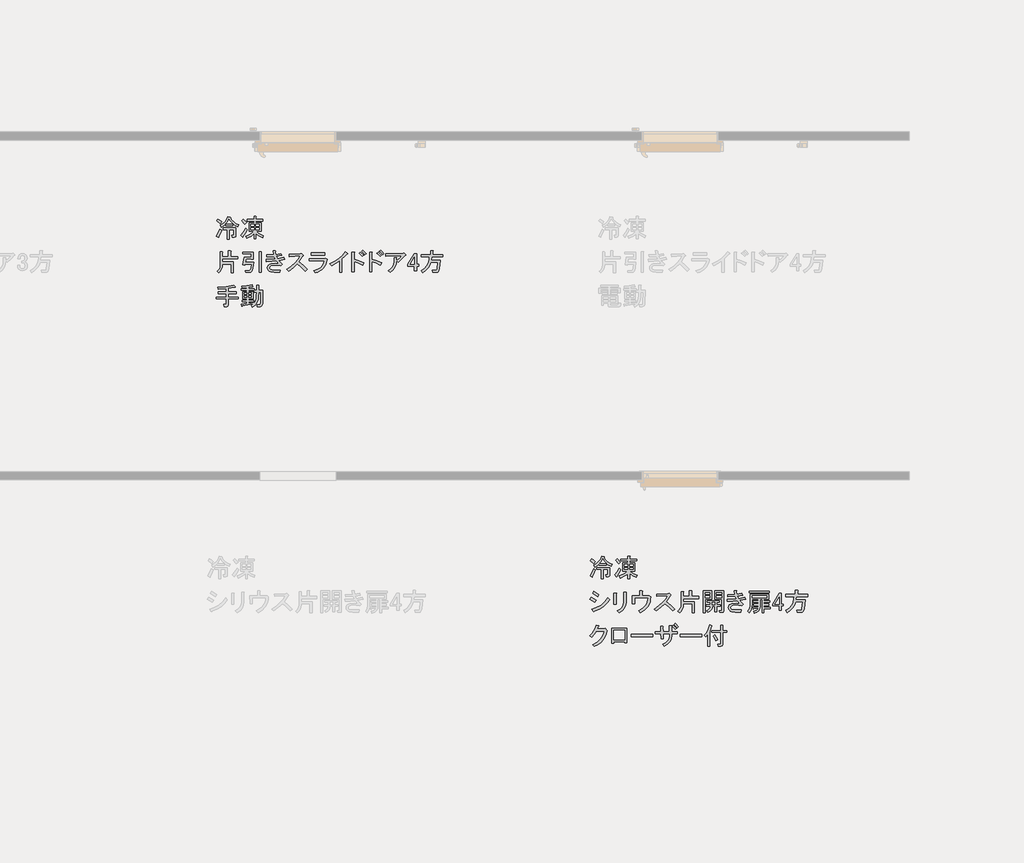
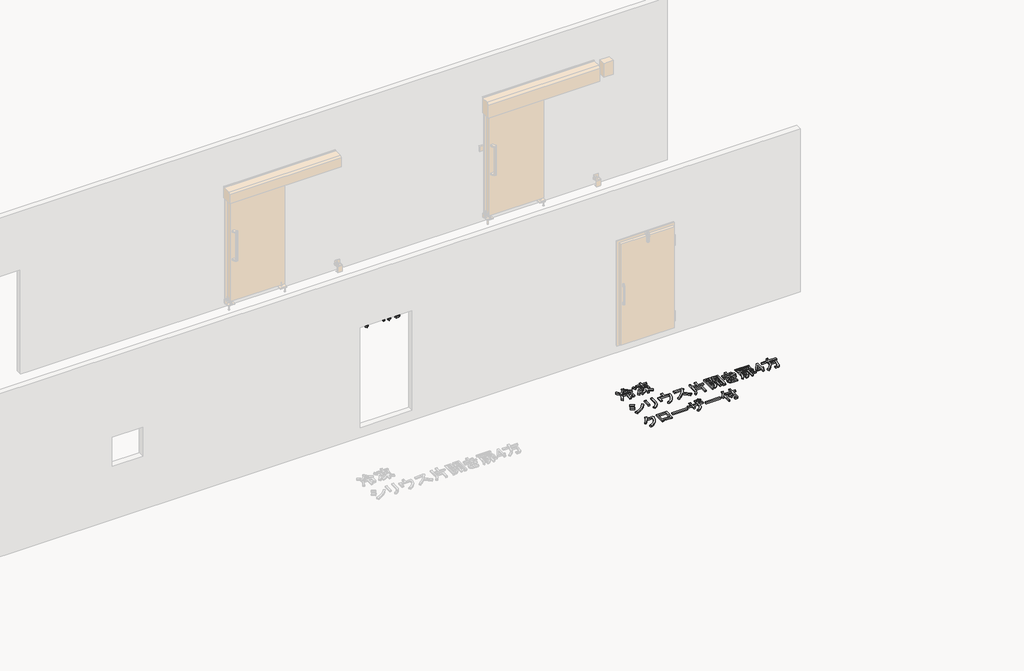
# One storey, part 100 of 117: 2 proxies.
"""IFC4 building model written with IfcOpenShell, lengths in millimetres."""

from ifc_helpers import new_model, si_unit, frame, origin, place, context, project, spatial, polyline, outline, extrude, element, save

model = new_model("IFC4")

# Units and contexts
model_context = context("Model", 3, world=origin())
ifc_project = project(units=[si_unit("LENGTHUNIT", "METRE", prefix="MILLI")], contexts=[model_context])

# Site, building, storey
site = spatial("IfcSite", under=ifc_project)
building = spatial("IfcBuilding", under=site)
storey = spatial("IfcBuildingStorey", under=building, Name="レベル 1", Elevation=500.0)

# Proxies
placement = place(None, origin())
element("IfcBuildingElementProxy", 1, Name="200㎜\u3000MS Pゴシック", ObjectType="200㎜\u3000MS Pゴシック", at=placement, inside=storey, context=model_context, shape_type="SweptSolid", body=[
    extrude(outline(polyline([(19383.6029468, 18948.5050774), (19417.2964447, 18967.9021871), (19443.6621457, 18991.6097656), (19462.7000496, 19019.6278129), (19474.4101566, 19051.9563291), (19505.4455321, 19043.9101206), (19506.882355, 19040.174381), (19501.997157, 19038.1628289), (19520.8195376, 19010.6476696), (19543.9523869, 18987.874026), (19571.3957051, 18969.8418981), (19603.149492, 18956.5512859), (19591.6549085, 18932.4126605), (19562.6310851, 18945.9187961), (19533.0325326, 18965.7469527), (19533.0325326, 18946.2061607), (19450.2715312, 18946.2061607), (19450.2715312, 18964.5974943), (19425.8455412, 18942.7577856), (19396.2469887, 18923.2169937), (19383.6029468, 18948.5050774)]), holes=[polyline([(19530.7336159, 18968.0458694), (19504.5834383, 18995.3455052), (19488.2036568, 19022.0704119), (19474.4101566, 18993.0465885), (19453.7199063, 18968.0458694), (19530.7336159, 18968.0458694)])]), frame((0.0, 0.0, 500.0), z_axis=(0.0, 0.0, 1.0), x_axis=(1.0, 0.0, 0.0)), (0.0, 0.0, 1.0), 25.0),
    extrude(outline(polyline([(19341.0729878, 18822.0646587), (19364.0621548, 18861.7209718), (19382.4534884, 18904.82566), (19403.1437388, 18892.1816181), (19385.6144989, 18848.2148362), (19367.5105299, 18812.8689919), (19366.9358007, 18806.5469709), (19362.9126965, 18805.9722417), (19341.0729878, 18822.0646587)])), frame((0.0, 0.0, 500.0), z_axis=(0.0, 0.0, 1.0), x_axis=(1.0, 0.0, 0.0)), (0.0, 0.0, 1.0), 25.0),
    extrude(outline(polyline([(19420.3856141, 18897.9289099), (19420.3856141, 18919.7686186), (19569.8151998, 18919.7686186), (19569.8151998, 18825.5130337), (19565.7920956, 18814.3058148), (19553.7227829, 18810.5700752), (19528.4346991, 18810.5700752), (19523.8368657, 18832.4097838), (19542.2281994, 18832.4097838), (19545.6765744, 18833.5592422), (19546.8260328, 18837.0076172), (19546.8260328, 18897.9289099), (19492.8014902, 18897.9289099), (19492.8014902, 18786.4314498), (19469.8123232, 18786.4314498), (19469.8123232, 18897.9289099), (19420.3856141, 18897.9289099)])), frame((0.0, 0.0, 500.0), z_axis=(0.0, 0.0, 1.0), x_axis=(1.0, 0.0, 0.0)), (0.0, 0.0, 1.0), 25.0),
    extrude(outline(polyline([(19358.314863, 19022.0704119), (19379.0051134, 19009.1390055), (19401.9942804, 18988.7361197), (19385.9018635, 18965.7469527), (19344.5213628, 19000.2307032), (19358.314863, 19022.0704119)])), frame((0.0, 0.0, 500.0), z_axis=(0.0, 0.0, 1.0), x_axis=(1.0, 0.0, 0.0)), (0.0, 0.0, 1.0), 25.0),
    extrude(outline(polyline([(19652.5762012, 18812.8689919), (19652.8635658, 18808.2711584), (19649.1278261, 18808.2711584), (19629.5870341, 18832.4097838), (19658.0361283, 18868.9050865), (19683.6115767, 18911.7224101), (19702.0029103, 18894.4805349), (19678.7263787, 18852.2379404), (19652.5762012, 18812.8689919)])), frame((0.0, 0.0, 500.0), z_axis=(0.0, 0.0, 1.0), x_axis=(1.0, 0.0, 0.0)), (0.0, 0.0, 1.0), 25.0),
    extrude(outline(polyline([(19659.4729513, 19022.0704119), (19696.2556185, 18981.8393696), (19675.5653682, 18962.2985776), (19639.9321593, 19004.8285366), (19659.4729513, 19022.0704119)])), frame((0.0, 0.0, 500.0), z_axis=(0.0, 0.0, 1.0), x_axis=(1.0, 0.0, 0.0)), (0.0, 0.0, 1.0), 25.0),
    extrude(outline(polyline([(19806.6036203, 18787.5809081), (19783.6144533, 18787.5809081), (19783.6144533, 18849.6516591), (19769.0307005, 18835.4989532), (19749.4180673, 18821.7772941), (19695.1061602, 18795.6271166), (19685.9104934, 18822.0646587), (19715.5090459, 18832.9126719), (19741.0844943, 18845.9159195), (19762.6368384, 18861.0744015), (19780.1660782, 18878.3881179), (19724.9920773, 18878.3881179), (19724.9920773, 18977.2415362), (19783.6144533, 18977.2415362), (19783.6144533, 18996.7823282), (19703.1523687, 18996.7823282), (19703.1523687, 19018.6220369), (19783.6144533, 19018.6220369), (19783.6144533, 19053.1057874), (19805.454162, 19053.1057874), (19810.33936, 19050.8068707), (19806.6036203, 19046.2090373), (19806.6036203, 19018.6220369), (19887.065705, 19018.6220369), (19887.065705, 18996.7823282), (19806.6036203, 18996.7823282), (19806.6036203, 18977.2415362), (19866.3754546, 18977.2415362), (19866.3754546, 18878.3881179), (19807.7530787, 18878.3881179), (19826.1444123, 18862.295701), (19846.8346627, 18848.5022008), (19895.1119134, 18827.8119504), (19884.7667883, 18802.5238667), (19841.6621001, 18823.5014816), (19806.6036203, 18849.6516591), (19806.6036203, 18787.5809081)]), holes=[polyline([(19806.6036203, 18937.0104939), (19846.8346627, 18937.0104939), (19846.8346627, 18958.8502026), (19806.6036203, 18958.8502026), (19806.6036203, 18937.0104939)]), polyline([(19806.6036203, 18896.7794516), (19846.8346627, 18896.7794516), (19846.8346627, 18918.6191602), (19806.6036203, 18918.6191602), (19806.6036203, 18896.7794516)]), polyline([(19744.5328693, 18896.7794516), (19783.6144533, 18896.7794516), (19783.6144533, 18918.6191602), (19744.5328693, 18918.6191602), (19744.5328693, 18896.7794516)]), polyline([(19744.5328693, 18937.0104939), (19783.6144533, 18937.0104939), (19783.6144533, 18958.8502026), (19744.5328693, 18958.8502026), (19744.5328693, 18937.0104939)])]), frame((0.0, 0.0, 500.0), z_axis=(0.0, 0.0, 1.0), x_axis=(1.0, 0.0, 0.0)), (0.0, 0.0, 1.0), 25.0),
    extrude(outline(polyline([(19360.6137797, 18431.2603255), (19419.379838, 18449.7235003), (19470.3870524, 18477.5260242), (19513.6354229, 18514.6678972), (19549.1249495, 18561.1491193), (19569.8151998, 18540.4588689), (19536.4809076, 18496.7794516), (19495.1004069, 18459.9967843), (19445.6736978, 18430.1108671), (19388.2007802, 18407.1217001), (19383.6029468, 18399.9375854), (19376.7061967, 18405.9722417), (19360.6137797, 18431.2603255)])), frame((0.0, 0.0, 500.0), z_axis=(0.0, 0.0, 1.0), x_axis=(1.0, 0.0, 0.0)), (0.0, 0.0, 1.0), 25.0),
    extrude(outline(polyline([(19352.5675713, 18570.3447861), (19411.1899472, 18533.5621188), (19392.7986136, 18509.4234934), (19335.325696, 18546.2061607), (19352.5675713, 18570.3447861)])), frame((0.0, 0.0, 500.0), z_axis=(0.0, 0.0, 1.0), x_axis=(1.0, 0.0, 0.0)), (0.0, 0.0, 1.0), 25.0),
    extrude(outline(polyline([(19384.7524051, 18638.1628289), (19443.3747811, 18601.3801616), (19427.2823642, 18577.2415362), (19369.8094466, 18614.0242035), (19384.7524051, 18638.1628289)])), frame((0.0, 0.0, 500.0), z_axis=(0.0, 0.0, 1.0), x_axis=(1.0, 0.0, 0.0)), (0.0, 0.0, 1.0), 25.0),
    extrude(outline(polyline([(19764.5334447, 18514.0213268), (19759.5045644, 18473.9339668), (19744.4179235, 18439.8812631), (19719.273522, 18411.8632158), (19684.07136, 18389.8798248), (19661.082193, 18409.4206168), (19694.344644, 18428.9614088), (19718.267746, 18453.1000342), (19732.8514988, 18481.836493), (19738.0959026, 18515.1707852), (19738.0959026, 18630.1166204), (19762.234528, 18630.1166204), (19768.5565489, 18626.6682453), (19764.5334447, 18620.9209536), (19764.5334447, 18514.0213268)])), frame((0.0, 0.0, 500.0), z_axis=(0.0, 0.0, 1.0), x_axis=(1.0, 0.0, 0.0)), (0.0, 0.0, 1.0), 25.0),
    extrude(outline(polyline([(19646.1392344, 18488.7332431), (19619.7016923, 18488.7332431), (19619.7016923, 18618.6220369), (19644.989776, 18618.6220369), (19651.0244324, 18615.748391), (19646.1392344, 18609.4263701), (19646.1392344, 18488.7332431)])), frame((0.0, 0.0, 500.0), z_axis=(0.0, 0.0, 1.0), x_axis=(1.0, 0.0, 0.0)), (0.0, 0.0, 1.0), 25.0),
    extrude(outline(polyline([(20053.047491, 18574.9426195), (20051.1616609, 18544.6436157), (20045.5041706, 18516.3920847), (20036.07502, 18490.1880263), (20022.8742093, 18466.0314406), (20005.9017383, 18443.9223276), (19985.1576071, 18423.8606873), (19960.6418157, 18405.8465197), (19932.3543641, 18389.8798248), (19910.5146554, 18411.7195335), (19959.3666353, 18440.1686277), (19978.6200627, 18456.7639327), (19994.4251151, 18474.9397429), (20006.7817923, 18494.6960583), (20015.6900946, 18516.032879), (20021.1500218, 18538.9502048), (20023.1615739, 18563.448036), (19863.3868629, 18563.448036), (19865.6857796, 18495.6299932), (19839.2482375, 18495.6299932), (19835.7998625, 18588.7361197), (19926.6070723, 18588.7361197), (19926.6070723, 18646.2090373), (19949.5962393, 18646.2090373), (19957.3550832, 18643.3353914), (19953.0446144, 18637.0133705), (19953.0446144, 18588.7361197), (20039.2539908, 18588.7361197), (20053.047491, 18574.9426195)])), frame((0.0, 0.0, 500.0), z_axis=(0.0, 0.0, 1.0), x_axis=(1.0, 0.0, 0.0)), (0.0, 0.0, 1.0), 25.0),
    extrude(outline(polyline([(20237.6964807, 18517.4697019), (20286.8358252, 18476.6639304), (20335.4004406, 18430.1108671), (20312.4112736, 18410.5700752), (20264.9961166, 18457.1231384), (20219.3051471, 18495.6299932), (20171.3152609, 18449.9390237), (20117.0033537, 18409.4206168), (20095.163645, 18428.9614088), (20150.6250105, 18468.6177219), (20195.1665217, 18508.2740351), (20228.7881785, 18547.9303482), (20251.4899809, 18587.5866614), (20126.1990205, 18579.5404529), (20122.7506455, 18607.1274534), (20256.0878143, 18612.8747451), (20269.8813145, 18616.3231202), (20288.2726482, 18597.9317865), (20291.1462941, 18591.322401), (20283.6748148, 18587.5866614), (20237.6964807, 18517.4697019)])), frame((0.0, 0.0, 500.0), z_axis=(0.0, 0.0, 1.0), x_axis=(1.0, 0.0, 0.0)), (0.0, 0.0, 1.0), 25.0),
    extrude(outline(polyline([(20435.8631006, 18637.0133705), (20441.8977569, 18633.5649954), (20437.0125589, 18627.8177037), (20437.0125589, 18579.5404529), (20508.2789768, 18579.5404529), (20508.2789768, 18648.507954), (20533.5670605, 18648.507954), (20539.6017169, 18645.059579), (20534.7165189, 18639.3122872), (20534.7165189, 18579.5404529), (20619.7764369, 18579.5404529), (20619.7764369, 18554.2523692), (20437.0125589, 18554.2523692), (20437.0125589, 18517.4697019), (20566.9013527, 18517.4697019), (20566.9013527, 18388.7303665), (20540.4638106, 18388.7303665), (20540.4638106, 18492.1816181), (20437.0125589, 18492.1816181), (20437.0125589, 18480.6870346), (20434.2825953, 18453.7466045), (20426.0927046, 18429.2487734), (20412.4428867, 18407.1935412), (20393.3331416, 18387.5809081), (20374.9418079, 18405.9722417), (20392.0400009, 18421.5617706), (20404.2529959, 18439.5938985), (20411.5807929, 18460.0686254), (20414.0233919, 18482.9859513), (20414.0233919, 18637.0133705), (20435.8631006, 18637.0133705)])), frame((0.0, 0.0, 500.0), z_axis=(0.0, 0.0, 1.0), x_axis=(1.0, 0.0, 0.0)), (0.0, 0.0, 1.0), 25.0),
    extrude(outline(polyline([(20773.8038561, 18548.5050774), (20693.3417714, 18548.5050774), (20693.3417714, 18387.5809081), (20670.3526044, 18387.5809081), (20670.3526044, 18643.9101206), (20773.8038561, 18643.9101206), (20773.8038561, 18548.5050774)]), holes=[polyline([(20750.814689, 18625.518787), (20693.3417714, 18625.518787), (20693.3417714, 18604.8285366), (20750.814689, 18604.8285366), (20750.814689, 18625.518787)]), polyline([(20693.3417714, 18566.896411), (20750.814689, 18566.896411), (20750.814689, 18586.437203), (20693.3417714, 18586.437203), (20693.3417714, 18566.896411)])]), frame((0.0, 0.0, 500.0), z_axis=(0.0, 0.0, 1.0), x_axis=(1.0, 0.0, 0.0)), (0.0, 0.0, 1.0), 25.0),
    extrude(outline(polyline([(20804.8392316, 18643.9101206), (20912.8883167, 18643.9101206), (20912.8883167, 18409.4206168), (20908.2904833, 18395.6271166), (20894.496983, 18391.0292832), (20866.9099826, 18391.0292832), (20863.4616075, 18412.8689919), (20885.3013162, 18412.8689919), (20888.7496913, 18414.0184502), (20889.8991496, 18417.4668253), (20889.8991496, 18548.5050774), (20847.3691906, 18548.5050774), (20804.8392316, 18548.5050774), (20804.8392316, 18643.9101206)]), holes=[polyline([(20889.8991496, 18604.8285366), (20889.8991496, 18625.518787), (20827.8283986, 18625.518787), (20827.8283986, 18604.8285366), (20889.8991496, 18604.8285366)]), polyline([(20827.8283986, 18566.896411), (20889.8991496, 18566.896411), (20889.8991496, 18586.437203), (20827.8283986, 18586.437203), (20827.8283986, 18566.896411)])]), frame((0.0, 0.0, 500.0), z_axis=(0.0, 0.0, 1.0), x_axis=(1.0, 0.0, 0.0)), (0.0, 0.0, 1.0), 25.0),
    extrude(outline(polyline([(20709.4341884, 18465.7440761), (20709.4341884, 18484.1354097), (20755.4125225, 18484.1354097), (20755.4125225, 18511.7224101), (20717.4803968, 18511.7224101), (20717.4803968, 18530.1137438), (20862.3121492, 18530.1137438), (20862.3121492, 18511.7224101), (20832.426232, 18511.7224101), (20832.426232, 18484.1354097), (20871.507816, 18484.1354097), (20871.507816, 18465.7440761), (20832.426232, 18465.7440761), (20832.426232, 18396.7765749), (20809.437065, 18396.7765749), (20809.437065, 18465.7440761), (20778.4016895, 18465.7440761), (20776.0309316, 18442.1083387), (20766.6197414, 18421.7772941), (20750.1681187, 18404.7509422), (20726.6760637, 18391.0292832), (20715.1814801, 18412.8689919), (20732.7825611, 18421.7772941), (20745.3547619, 18433.5592422), (20752.8980823, 18448.2148362), (20755.4125225, 18465.7440761), (20709.4341884, 18465.7440761)]), holes=[polyline([(20809.437065, 18484.1354097), (20809.437065, 18511.7224101), (20778.4016895, 18511.7224101), (20778.4016895, 18484.1354097), (20809.437065, 18484.1354097)])]), frame((0.0, 0.0, 500.0), z_axis=(0.0, 0.0, 1.0), x_axis=(1.0, 0.0, 0.0)), (0.0, 0.0, 1.0), 25.0),
    extrude(outline(polyline([(21073.812486, 18582.988828), (21087.6059862, 18554.2523692), (21160.0218624, 18570.3447861), (21170.3669875, 18546.2061607), (21100.2500281, 18533.5621188), (21120.0781846, 18511.147681), (21145.0789038, 18489.8827014), (21125.5381118, 18470.3419095), (21088.46808, 18477.2386596), (21060.0189857, 18479.5375763), (21022.0868601, 18476.0892012), (21009.1554537, 18471.7787324), (21000.2471514, 18465.7440761), (20994.2124951, 18457.410503), (20992.200943, 18448.5022008), (20993.9251305, 18438.1570756), (20999.0976931, 18430.1108671), (21016.626933, 18423.214117), (21050.8233189, 18420.9152003), (21120.9402784, 18420.9152003), (21116.342445, 18395.6271166), (21046.2254855, 18395.6271166), (21007.1439015, 18400.22495), (20992.7756721, 18405.9722417), (20981.8558178, 18414.0184502), (20971.5106926, 18429.8235025), (20968.0623176, 18449.6516591), (20971.223328, 18465.7440761), (20980.7063595, 18479.5375763), (20993.0630367, 18488.0866728), (21010.5922766, 18494.1931703), (21061.1684441, 18499.0783683), (21102.5489448, 18495.6299932), (21073.812486, 18528.9642854), (21017.2016621, 18523.7917228), (20955.4182757, 18522.0675353), (20951.9699007, 18546.2061607), (21008.8680891, 18546.7808899), (21062.3179024, 18550.8039941), (21049.6738606, 18579.5404529), (20961.1655675, 18576.0920778), (20958.8666508, 18599.0812449), (21043.9265688, 18601.3801616), (21034.730902, 18648.507954), (21060.0189857, 18648.507954), (21066.0536421, 18645.059579), (21061.1684441, 18639.3122872), (21066.9157359, 18604.8285366), (21127.8370285, 18616.3231202), (21135.883237, 18593.3339531), (21073.812486, 18582.988828)])), frame((0.0, 0.0, 500.0), z_axis=(0.0, 0.0, 1.0), x_axis=(1.0, 0.0, 0.0)), (0.0, 0.0, 1.0), 25.0),
    extrude(outline(polyline([(21452.0302621, 18641.6112039), (21452.0302621, 18623.2198703), (21212.9429249, 18623.2198703), (21212.9429249, 18641.6112039), (21452.0302621, 18641.6112039)])), frame((0.0, 0.0, 500.0), z_axis=(0.0, 0.0, 1.0), x_axis=(1.0, 0.0, 0.0)), (0.0, 0.0, 1.0), 25.0),
    extrude(outline(polyline([(21264.6685507, 18403.673325), (21284.4967073, 18410.3545517), (21300.3017597, 18418.9036482), (21312.0837078, 18429.3206145), (21319.8425516, 18441.6054507), (21264.6685507, 18433.5592422), (21262.6569986, 18428.6740442), (21258.921259, 18430.1108671), (21254.3234256, 18451.9505758), (21322.1414683, 18458.8473259), (21322.1414683, 18472.6408262), (21268.1169258, 18472.6408262), (21268.1169258, 18491.0321598), (21322.1414683, 18491.0321598), (21322.1414683, 18509.4234934), (21261.2201757, 18509.4234934), (21261.2201757, 18527.8148271), (21322.1414683, 18527.8148271), (21322.1414683, 18548.5050774), (21247.4266755, 18548.5050774), (21247.4266755, 18482.9859513), (21245.4151233, 18455.6144743), (21239.380467, 18430.9729609), (21229.3227064, 18409.0614111), (21215.2418416, 18389.8798248), (21197.9999663, 18407.1217001), (21209.566391, 18424.7946223), (21217.8281229, 18444.4790965), (21222.785162, 18466.1751229), (21224.4375084, 18489.8827014), (21224.4375084, 18605.977995), (21441.685137, 18605.977995), (21441.685137, 18548.5050774), (21385.3616777, 18548.5050774), (21385.3616777, 18527.8148271), (21455.4786372, 18527.8148271), (21455.4786372, 18509.4234934), (21385.3616777, 18509.4234934), (21385.3616777, 18491.0321598), (21442.8345953, 18491.0321598), (21442.8345953, 18472.6408262), (21385.3616777, 18472.6408262), (21385.3616777, 18453.1000342), (21462.3753873, 18453.1000342), (21462.3753873, 18434.7087005), (21385.3616777, 18434.7087005), (21385.3616777, 18388.7303665), (21365.8208857, 18388.7303665), (21365.8208857, 18548.5050774), (21341.6822603, 18548.5050774), (21341.6822603, 18462.295701), (21337.2999504, 18434.4931771), (21324.1530205, 18412.0068981), (21302.2414706, 18394.836864), (21271.5653009, 18382.9830747), (21264.6685507, 18403.673325)]), holes=[polyline([(21418.6959699, 18587.5866614), (21247.4266755, 18587.5866614), (21247.4266755, 18566.896411), (21418.6959699, 18566.896411), (21418.6959699, 18587.5866614)])]), frame((0.0, 0.0, 500.0), z_axis=(0.0, 0.0, 1.0), x_axis=(1.0, 0.0, 0.0)), (0.0, 0.0, 1.0), 25.0),
    extrude(outline(polyline([(21565.826639, 18615.1736618), (21592.2641811, 18615.1736618), (21592.2641811, 18488.7332431), (21616.4028065, 18488.7332431), (21616.4028065, 18466.8935344), (21592.2641811, 18466.8935344), (21592.2641811, 18416.3173669), (21565.826639, 18416.3173669), (21565.826639, 18466.8935344), (21488.8129294, 18466.8935344), (21488.8129294, 18489.8827014), (21565.826639, 18615.1736618)]), holes=[polyline([(21565.826639, 18572.6437028), (21514.1010131, 18488.7332431), (21565.826639, 18488.7332431), (21565.826639, 18572.6437028)])]), frame((0.0, 0.0, 500.0), z_axis=(0.0, 0.0, 1.0), x_axis=(1.0, 0.0, 0.0)), (0.0, 0.0, 1.0), 25.0),
    extrude(outline(polyline([(21763.5334755, 18538.1599522), (21870.4331023, 18538.1599522), (21858.9385187, 18434.7087005), (21855.130938, 18416.6047315), (21848.306029, 18403.673325), (21838.4637919, 18395.9144812), (21825.6042265, 18393.3281999), (21779.6258925, 18393.3281999), (21773.8786007, 18418.6162836), (21823.3053098, 18418.6162836), (21829.9146954, 18422.9267524), (21833.650435, 18435.8581589), (21842.8461018, 18516.3202435), (21760.0851005, 18516.3202435), (21748.3031524, 18480.8307169), (21727.9002666, 18447.9274716), (21698.8764432, 18417.6105076), (21661.2316822, 18389.8798248), (21645.1392653, 18414.0184502), (21684.7237373, 18440.2404689), (21713.8194018, 18472.9281908), (21732.4262589, 18512.0816159), (21740.5443085, 18557.7007442), (21741.6937668, 18578.3909946), (21645.1392653, 18578.3909946), (21645.1392653, 18603.6790783), (21757.7861838, 18603.6790783), (21757.7861838, 18649.6574124), (21783.0742675, 18649.6574124), (21789.1089239, 18646.2090373), (21784.2237259, 18640.4617456), (21784.2237259, 18603.6790783), (21900.3190194, 18603.6790783), (21900.3190194, 18578.3909946), (21768.1313089, 18578.3909946), (21763.5334755, 18538.1599522)])), frame((0.0, 0.0, 500.0), z_axis=(0.0, 0.0, 1.0), x_axis=(1.0, 0.0, 0.0)), (0.0, 0.0, 1.0), 25.0),
    extrude(outline(polyline([(19535.3314493, 18170.3447861), (19528.3089771, 18140.1355838), (19518.1614151, 18112.153457), (19504.8887632, 18086.3984058), (19488.4910214, 18062.8704302), (19468.9681897, 18041.5695301), (19446.3202681, 18022.4957056), (19420.5472566, 18005.6489566), (19391.6491553, 17991.0292832), (19370.9589049, 18012.8689919), (19421.6787547, 18040.0249454), (19442.8359725, 18056.7280121), (19461.1913856, 18075.514472), (19476.7449939, 18096.3843252), (19489.4967975, 18119.3375717), (19499.4467963, 18144.3742114), (19506.5949905, 18171.4942444), (19414.6383223, 18171.4942444), (19387.626051, 18132.1252959), (19359.4643214, 18101.377285), (19336.4751544, 18116.3202435), (19363.7029491, 18144.4819732), (19385.6144989, 18174.9426195), (19402.2098039, 18207.7021825), (19413.4888639, 18242.7606623), (19439.926406, 18233.5649954), (19442.8000519, 18230.1166204), (19437.6274893, 18226.6682453), (19424.9834475, 18196.7823282), (19507.7444488, 18196.7823282), (19518.089574, 18202.5296199), (19538.7798243, 18181.8393696), (19541.9408348, 18174.9426195), (19535.3314493, 18170.3447861)])), frame((0.0, 0.0, 500.0), z_axis=(0.0, 0.0, 1.0), x_axis=(1.0, 0.0, 0.0)), (0.0, 0.0, 1.0), 25.0),
    extrude(outline(polyline([(19773.0394365, 18032.4097838), (19746.6018944, 18032.4097838), (19746.6018944, 18045.0538257), (19619.0120173, 18045.0538257), (19619.0120173, 18026.6624921), (19592.5744752, 18026.6624921), (19592.5744752, 18205.977995), (19773.0394365, 18205.977995), (19773.0394365, 18032.4097838)]), holes=[polyline([(19619.0120173, 18180.6899113), (19619.0120173, 18070.3419095), (19746.6018944, 18070.3419095), (19746.6018944, 18180.6899113), (19619.0120173, 18180.6899113)])]), frame((0.0, 0.0, 500.0), z_axis=(0.0, 0.0, 1.0), x_axis=(1.0, 0.0, 0.0)), (0.0, 0.0, 1.0), 25.0),
    extrude(outline(polyline([(19823.7995173, 18107.1245767), (19823.7995173, 18132.4126605), (20080.1287298, 18132.4126605), (20080.1287298, 18107.1245767), (19823.7995173, 18107.1245767)])), frame((0.0, 0.0, 500.0), z_axis=(0.0, 0.0, 1.0), x_axis=(1.0, 0.0, 0.0)), (0.0, 0.0, 1.0), 25.0),
    extrude(outline(polyline([(20343.0788224, 18261.1519959), (20379.8614897, 18223.2198703), (20364.9185311, 18210.5758284), (20330.4347805, 18247.3584957), (20343.0788224, 18261.1519959)])), frame((0.0, 0.0, 500.0), z_axis=(0.0, 0.0, 1.0), x_axis=(1.0, 0.0, 0.0)), (0.0, 0.0, 1.0), 25.0),
    extrude(outline(polyline([(20300.5488634, 18165.7469527), (20368.3669062, 18165.7469527), (20368.3669062, 18140.4588689), (20301.6983217, 18140.4588689), (20301.6983217, 18118.6191602), (20296.0228711, 18078.6036414), (20288.9285579, 18060.9127589), (20278.9965193, 18044.7664611), (20250.6192662, 18017.1076195), (20210.8911119, 17995.6271166), (20192.4997783, 18016.3173669), (20228.7077164, 18032.9126719), (20254.5705293, 18055.1115863), (20270.0882171, 18082.9141102), (20275.2607796, 18116.3202435), (20275.2607796, 18140.4588689), (20199.3965284, 18140.4588689), (20200.5459868, 18081.836493), (20175.257903, 18081.836493), (20174.1084447, 18140.4588689), (20109.7387769, 18140.4588689), (20109.7387769, 18165.7469527), (20174.1084447, 18165.7469527), (20172.9589863, 18226.6682453), (20197.0976117, 18226.6682453), (20203.132268, 18223.2198703), (20198.24707, 18215.1736618), (20199.3965284, 18165.7469527), (20274.1113213, 18165.7469527), (20274.1113213, 18235.8639122), (20299.399405, 18235.8639122), (20305.4340614, 18232.4155371), (20300.5488634, 18224.3693286), (20300.5488634, 18165.7469527)])), frame((0.0, 0.0, 500.0), z_axis=(0.0, 0.0, 1.0), x_axis=(1.0, 0.0, 0.0)), (0.0, 0.0, 1.0), 25.0),
    extrude(outline(polyline([(20321.2391137, 18241.6112039), (20358.021781, 18203.6790783), (20343.0788224, 18191.0350364), (20308.5950718, 18227.8177037), (20321.2391137, 18241.6112039)])), frame((0.0, 0.0, 500.0), z_axis=(0.0, 0.0, 1.0), x_axis=(1.0, 0.0, 0.0)), (0.0, 0.0, 1.0), 25.0),
    extrude(outline(polyline([(20400.55174, 18107.1245767), (20400.55174, 18132.4126605), (20656.8809525, 18132.4126605), (20656.8809525, 18107.1245767), (20400.55174, 18107.1245767)])), frame((0.0, 0.0, 500.0), z_axis=(0.0, 0.0, 1.0), x_axis=(1.0, 0.0, 0.0)), (0.0, 0.0, 1.0), 25.0),
    extrude(outline(polyline([(20769.252001, 18227.8177037), (20760.6310634, 18199.0812449), (20748.5617507, 18170.3447861), (20754.8837716, 18166.896411), (20750.8606674, 18161.1491193), (20750.8606674, 17991.0292832), (20727.8715003, 17991.0292832), (20727.8715003, 18133.5621188), (20702.5834166, 18102.5267433), (20684.192083, 18123.2169937), (20706.7502031, 18148.4332363), (20724.9978545, 18176.9541716), (20738.935037, 18208.7797997), (20748.5617507, 18243.9101206), (20772.7003761, 18234.7144538), (20774.137199, 18230.6913496), (20769.252001, 18227.8177037)])), frame((0.0, 0.0, 500.0), z_axis=(0.0, 0.0, 1.0), x_axis=(1.0, 0.0, 0.0)), (0.0, 0.0, 1.0), 25.0),
    extrude(outline(polyline([(20876.1516278, 18177.2415362), (20876.1516278, 18242.7606623), (20897.9913364, 18242.7606623), (20902.8765344, 18240.4617456), (20899.1407948, 18235.8639122), (20899.1407948, 18177.2415362), (20946.2685872, 18177.2415362), (20946.2685872, 18155.4018275), (20899.1407948, 18155.4018275), (20899.1407948, 18012.8689919), (20894.5429614, 17999.0754916), (20880.7494612, 17994.4776582), (20846.2657106, 17994.4776582), (20840.5184188, 18016.3173669), (20871.5537943, 18016.3173669), (20875.0021694, 18017.4668253), (20876.1516278, 18020.9152003), (20876.1516278, 18155.4018275), (20772.7003761, 18155.4018275), (20772.7003761, 18177.2415362), (20876.1516278, 18177.2415362)])), frame((0.0, 0.0, 500.0), z_axis=(0.0, 0.0, 1.0), x_axis=(1.0, 0.0, 0.0)), (0.0, 0.0, 1.0), 25.0),
    extrude(outline(polyline([(20809.4830433, 18125.5159104), (20845.1162522, 18071.4913678), (20822.1270852, 18056.5484092), (20805.4599391, 18087.0090556), (20787.6433346, 18111.7224101), (20809.4830433, 18125.5159104)])), frame((0.0, 0.0, 500.0), z_axis=(0.0, 0.0, 1.0), x_axis=(1.0, 0.0, 0.0)), (0.0, 0.0, 1.0), 25.0),
])
element("IfcBuildingElementProxy", 2, Name="200㎜\u3000MS Pゴシック", ObjectType="200㎜\u3000MS Pゴシック", at=placement, inside=storey, context=model_context, shape_type="SweptSolid", body=[
    extrude(outline(polyline([(14983.6029468, 22948.5050774), (15017.2964447, 22967.9021871), (15043.6621457, 22991.6097656), (15062.7000496, 23019.6278129), (15074.4101566, 23051.9563291), (15105.4455321, 23043.9101206), (15106.882355, 23040.174381), (15101.997157, 23038.1628289), (15120.8195376, 23010.6476696), (15143.9523869, 22987.874026), (15171.3957051, 22969.8418981), (15203.149492, 22956.5512859), (15191.6549085, 22932.4126605), (15162.6310851, 22945.9187961), (15133.0325326, 22965.7469527), (15133.0325326, 22946.2061607), (15050.2715312, 22946.2061607), (15050.2715312, 22964.5974943), (15025.8455412, 22942.7577856), (14996.2469887, 22923.2169937), (14983.6029468, 22948.5050774)]), holes=[polyline([(15130.7336159, 22968.0458694), (15104.5834383, 22995.3455052), (15088.2036568, 23022.0704119), (15074.4101566, 22993.0465885), (15053.7199063, 22968.0458694), (15130.7336159, 22968.0458694)])]), frame((0.0, 0.0, 500.0), z_axis=(0.0, 0.0, 1.0), x_axis=(1.0, 0.0, 0.0)), (0.0, 0.0, 1.0), 25.0),
    extrude(outline(polyline([(14941.0729878, 22822.0646587), (14964.0621548, 22861.7209718), (14982.4534884, 22904.82566), (15003.1437388, 22892.1816181), (14985.6144989, 22848.2148362), (14967.5105299, 22812.8689919), (14966.9358007, 22806.5469709), (14962.9126965, 22805.9722417), (14941.0729878, 22822.0646587)])), frame((0.0, 0.0, 500.0), z_axis=(0.0, 0.0, 1.0), x_axis=(1.0, 0.0, 0.0)), (0.0, 0.0, 1.0), 25.0),
    extrude(outline(polyline([(15020.3856141, 22897.9289099), (15020.3856141, 22919.7686186), (15169.8151998, 22919.7686186), (15169.8151998, 22825.5130337), (15165.7920956, 22814.3058148), (15153.7227829, 22810.5700752), (15128.4346991, 22810.5700752), (15123.8368657, 22832.4097838), (15142.2281994, 22832.4097838), (15145.6765744, 22833.5592422), (15146.8260328, 22837.0076172), (15146.8260328, 22897.9289099), (15092.8014902, 22897.9289099), (15092.8014902, 22786.4314498), (15069.8123232, 22786.4314498), (15069.8123232, 22897.9289099), (15020.3856141, 22897.9289099)])), frame((0.0, 0.0, 500.0), z_axis=(0.0, 0.0, 1.0), x_axis=(1.0, 0.0, 0.0)), (0.0, 0.0, 1.0), 25.0),
    extrude(outline(polyline([(14958.314863, 23022.0704119), (14979.0051134, 23009.1390055), (15001.9942804, 22988.7361197), (14985.9018635, 22965.7469527), (14944.5213628, 23000.2307032), (14958.314863, 23022.0704119)])), frame((0.0, 0.0, 500.0), z_axis=(0.0, 0.0, 1.0), x_axis=(1.0, 0.0, 0.0)), (0.0, 0.0, 1.0), 25.0),
    extrude(outline(polyline([(15252.5762012, 22812.8689919), (15252.8635658, 22808.2711584), (15249.1278261, 22808.2711584), (15229.5870341, 22832.4097838), (15258.0361283, 22868.9050865), (15283.6115767, 22911.7224101), (15302.0029103, 22894.4805349), (15278.7263787, 22852.2379404), (15252.5762012, 22812.8689919)])), frame((0.0, 0.0, 500.0), z_axis=(0.0, 0.0, 1.0), x_axis=(1.0, 0.0, 0.0)), (0.0, 0.0, 1.0), 25.0),
    extrude(outline(polyline([(15259.4729513, 23022.0704119), (15296.2556185, 22981.8393696), (15275.5653682, 22962.2985776), (15239.9321593, 23004.8285366), (15259.4729513, 23022.0704119)])), frame((0.0, 0.0, 500.0), z_axis=(0.0, 0.0, 1.0), x_axis=(1.0, 0.0, 0.0)), (0.0, 0.0, 1.0), 25.0),
    extrude(outline(polyline([(15406.6036203, 22787.5809081), (15383.6144533, 22787.5809081), (15383.6144533, 22849.6516591), (15369.0307005, 22835.4989532), (15349.4180673, 22821.7772941), (15295.1061602, 22795.6271166), (15285.9104934, 22822.0646587), (15315.5090459, 22832.9126719), (15341.0844943, 22845.9159195), (15362.6368384, 22861.0744015), (15380.1660782, 22878.3881179), (15324.9920773, 22878.3881179), (15324.9920773, 22977.2415362), (15383.6144533, 22977.2415362), (15383.6144533, 22996.7823282), (15303.1523687, 22996.7823282), (15303.1523687, 23018.6220369), (15383.6144533, 23018.6220369), (15383.6144533, 23053.1057874), (15405.454162, 23053.1057874), (15410.33936, 23050.8068707), (15406.6036203, 23046.2090373), (15406.6036203, 23018.6220369), (15487.065705, 23018.6220369), (15487.065705, 22996.7823282), (15406.6036203, 22996.7823282), (15406.6036203, 22977.2415362), (15466.3754546, 22977.2415362), (15466.3754546, 22878.3881179), (15407.7530787, 22878.3881179), (15426.1444123, 22862.295701), (15446.8346627, 22848.5022008), (15495.1119134, 22827.8119504), (15484.7667883, 22802.5238667), (15441.6621001, 22823.5014816), (15406.6036203, 22849.6516591), (15406.6036203, 22787.5809081)]), holes=[polyline([(15406.6036203, 22937.0104939), (15446.8346627, 22937.0104939), (15446.8346627, 22958.8502026), (15406.6036203, 22958.8502026), (15406.6036203, 22937.0104939)]), polyline([(15406.6036203, 22896.7794516), (15446.8346627, 22896.7794516), (15446.8346627, 22918.6191602), (15406.6036203, 22918.6191602), (15406.6036203, 22896.7794516)]), polyline([(15344.5328693, 22896.7794516), (15383.6144533, 22896.7794516), (15383.6144533, 22918.6191602), (15344.5328693, 22918.6191602), (15344.5328693, 22896.7794516)]), polyline([(15344.5328693, 22937.0104939), (15383.6144533, 22937.0104939), (15383.6144533, 22958.8502026), (15344.5328693, 22958.8502026), (15344.5328693, 22937.0104939)])]), frame((0.0, 0.0, 500.0), z_axis=(0.0, 0.0, 1.0), x_axis=(1.0, 0.0, 0.0)), (0.0, 0.0, 1.0), 25.0),
    extrude(outline(polyline([(15008.8910305, 22637.0133705), (15014.9256869, 22633.5649954), (15010.0404889, 22627.8177037), (15010.0404889, 22579.5404529), (15081.3069067, 22579.5404529), (15081.3069067, 22648.507954), (15106.5949905, 22648.507954), (15112.6296468, 22645.059579), (15107.7444488, 22639.3122872), (15107.7444488, 22579.5404529), (15192.8043669, 22579.5404529), (15192.8043669, 22554.2523692), (15010.0404889, 22554.2523692), (15010.0404889, 22517.4697019), (15139.9292827, 22517.4697019), (15139.9292827, 22388.7303665), (15113.4917406, 22388.7303665), (15113.4917406, 22492.1816181), (15010.0404889, 22492.1816181), (15010.0404889, 22480.6870346), (15007.3105253, 22453.7466045), (14999.1206345, 22429.2487734), (14985.4708166, 22407.1935412), (14966.3610715, 22387.5809081), (14947.9697379, 22405.9722417), (14965.0679309, 22421.5617706), (14977.2809259, 22439.5938985), (14984.6087228, 22460.0686254), (14987.0513218, 22482.9859513), (14987.0513218, 22637.0133705), (15008.8910305, 22637.0133705)])), frame((0.0, 0.0, 500.0), z_axis=(0.0, 0.0, 1.0), x_axis=(1.0, 0.0, 0.0)), (0.0, 0.0, 1.0), 25.0),
    extrude(outline(polyline([(15466.3754546, 22396.7765749), (15443.3862876, 22396.7765749), (15443.3862876, 22637.0133705), (15465.2259963, 22637.0133705), (15470.1111943, 22634.7144538), (15466.3754546, 22630.1166204), (15466.3754546, 22396.7765749)])), frame((0.0, 0.0, 500.0), z_axis=(0.0, 0.0, 1.0), x_axis=(1.0, 0.0, 0.0)), (0.0, 0.0, 1.0), 25.0),
    extrude(outline(polyline([(15380.1660782, 22511.7224101), (15370.9704114, 22441.8928152), (15364.6483905, 22419.2628539), (15357.1769112, 22404.8227834), (15346.5444214, 22397.0639395), (15330.7393691, 22394.4776582), (15284.761035, 22394.4776582), (15281.31266, 22416.3173669), (15323.842619, 22416.3173669), (15334.4751088, 22418.328919), (15341.0844943, 22424.3635754), (15349.1307027, 22448.2148362), (15354.8779945, 22489.8827014), (15277.8642849, 22489.8827014), (15275.5653682, 22478.3881179), (15251.4267428, 22481.836493), (15267.5191597, 22574.9426195), (15353.7285361, 22574.9426195), (15353.7285361, 22611.7252868), (15247.9783678, 22611.7252868), (15247.9783678, 22633.5649954), (15376.7177032, 22633.5649954), (15376.7177032, 22547.355619), (15353.7285361, 22547.355619), (15353.7285361, 22553.1029108), (15289.3588684, 22553.1029108), (15282.4621183, 22511.7224101), (15380.1660782, 22511.7224101)])), frame((0.0, 0.0, 500.0), z_axis=(0.0, 0.0, 1.0), x_axis=(1.0, 0.0, 0.0)), (0.0, 0.0, 1.0), 25.0),
    extrude(outline(polyline([(15646.8404159, 22582.988828), (15660.6339161, 22554.2523692), (15733.0497923, 22570.3447861), (15743.3949175, 22546.2061607), (15673.277958, 22533.5621188), (15693.1061146, 22511.147681), (15718.1068337, 22489.8827014), (15698.5660418, 22470.3419095), (15661.4960099, 22477.2386596), (15633.0469157, 22479.5375763), (15595.1147901, 22476.0892012), (15582.1833836, 22471.7787324), (15573.2750814, 22465.7440761), (15567.240425, 22457.410503), (15565.2288729, 22448.5022008), (15566.9530605, 22438.1570756), (15572.125623, 22430.1108671), (15589.6548629, 22423.214117), (15623.8512489, 22420.9152003), (15693.9682084, 22420.9152003), (15689.3703749, 22395.6271166), (15619.2534155, 22395.6271166), (15580.1718315, 22400.22495), (15565.8036021, 22405.9722417), (15554.8837478, 22414.0184502), (15544.5386226, 22429.8235025), (15541.0902475, 22449.6516591), (15544.251258, 22465.7440761), (15553.7342894, 22479.5375763), (15566.0909667, 22488.0866728), (15583.6202066, 22494.1931703), (15634.196374, 22499.0783683), (15675.5768747, 22495.6299932), (15646.8404159, 22528.9642854), (15590.2295921, 22523.7917228), (15528.4462057, 22522.0675353), (15524.9978306, 22546.2061607), (15581.896019, 22546.7808899), (15635.3458324, 22550.8039941), (15622.7017905, 22579.5404529), (15534.1934974, 22576.0920778), (15531.8945807, 22599.0812449), (15616.9544988, 22601.3801616), (15607.7588319, 22648.507954), (15633.0469157, 22648.507954), (15639.081572, 22645.059579), (15634.196374, 22639.3122872), (15639.9436658, 22604.8285366), (15700.8649585, 22616.3231202), (15708.9111669, 22593.3339531), (15646.8404159, 22582.988828)])), frame((0.0, 0.0, 500.0), z_axis=(0.0, 0.0, 1.0), x_axis=(1.0, 0.0, 0.0)), (0.0, 0.0, 1.0), 25.0),
    extrude(outline(polyline([(15911.2618152, 22517.4697019), (15960.4011598, 22476.6639304), (16008.9657751, 22430.1108671), (15985.9766081, 22410.5700752), (15938.5614511, 22457.1231384), (15892.8704816, 22495.6299932), (15844.8805954, 22449.9390237), (15790.5686883, 22409.4206168), (15768.7289796, 22428.9614088), (15824.1903451, 22468.6177219), (15868.7318562, 22508.2740351), (15902.353513, 22547.9303482), (15925.0553154, 22587.5866614), (15799.7643551, 22579.5404529), (15796.31598, 22607.1274534), (15929.6531489, 22612.8747451), (15943.4466491, 22616.3231202), (15961.8379827, 22597.9317865), (15964.7116286, 22591.322401), (15957.2401493, 22587.5866614), (15911.2618152, 22517.4697019)])), frame((0.0, 0.0, 500.0), z_axis=(0.0, 0.0, 1.0), x_axis=(1.0, 0.0, 0.0)), (0.0, 0.0, 1.0), 25.0),
    extrude(outline(polyline([(16215.1786035, 22597.9317865), (16056.5533509, 22597.9317865), (16056.5533509, 22623.2198703), (16215.1786035, 22623.2198703), (16215.1786035, 22597.9317865)])), frame((0.0, 0.0, 500.0), z_axis=(0.0, 0.0, 1.0), x_axis=(1.0, 0.0, 0.0)), (0.0, 0.0, 1.0), 25.0),
    extrude(outline(polyline([(16085.2898097, 22411.7195335), (16134.9320423, 22430.039026), (16155.1732855, 22442.1622195), (16172.3612799, 22456.2610446), (16186.4960256, 22472.3355013), (16197.5775225, 22490.3855895), (16205.6057707, 22510.4113092), (16210.5807701, 22532.4126605), (16035.8631006, 22532.4126605), (16035.8631006, 22557.7007442), (16211.7302284, 22557.7007442), (16222.0753536, 22561.1491193), (16242.765604, 22548.5050774), (16245.6392498, 22543.0451502), (16240.4666872, 22538.1599522), (16234.3422295, 22510.6807135), (16225.1645229, 22485.7159149), (16212.9335677, 22463.2655565), (16197.6493636, 22443.3296382), (16179.3119109, 22425.90816), (16157.9212093, 22411.001122), (16133.4772591, 22398.6085242), (16105.9800601, 22388.7303665), (16085.2898097, 22411.7195335)])), frame((0.0, 0.0, 500.0), z_axis=(0.0, 0.0, 1.0), x_axis=(1.0, 0.0, 0.0)), (0.0, 0.0, 1.0), 25.0),
    extrude(outline(polyline([(16277.6631595, 22496.7794516), (16334.3458245, 22524.6538166), (16383.7006925, 22557.7007442), (16425.7277635, 22595.9202344), (16460.4270375, 22639.3122872), (16482.2667462, 22620.9209536), (16484.8530275, 22614.8862972), (16474.2205377, 22610.5758284), (16449.2198186, 22581.552005), (16417.8970785, 22551.9534525), (16417.8970785, 22395.6271166), (16391.4595364, 22395.6271166), (16391.4595364, 22530.1137438), (16347.780119, 22500.5151912), (16297.2039515, 22473.7902845), (16277.6631595, 22496.7794516)])), frame((0.0, 0.0, 500.0), z_axis=(0.0, 0.0, 1.0), x_axis=(1.0, 0.0, 0.0)), (0.0, 0.0, 1.0), 25.0),
    extrude(outline(polyline([(16662.6397508, 22480.6870346), (16607.1783853, 22506.5498475), (16562.6368742, 22522.0675353), (16562.6368742, 22402.5238667), (16536.1993321, 22402.5238667), (16536.1993321, 22632.4155371), (16559.1884991, 22632.4155371), (16566.947343, 22629.5418912), (16562.6368742, 22623.2198703), (16562.6368742, 22550.8039941), (16619.247698, 22531.8379313), (16676.433251, 22507.1245767), (16662.6397508, 22480.6870346)])), frame((0.0, 0.0, 500.0), z_axis=(0.0, 0.0, 1.0), x_axis=(1.0, 0.0, 0.0)), (0.0, 0.0, 1.0), 25.0),
    extrude(outline(polyline([(16660.3408341, 22581.8393696), (16640.8000421, 22603.6790783), (16621.2592501, 22620.9209536), (16636.2022087, 22632.4155371), (16655.7430007, 22615.1736618), (16675.2837927, 22593.3339531), (16660.3408341, 22581.8393696)])), frame((0.0, 0.0, 500.0), z_axis=(0.0, 0.0, 1.0), x_axis=(1.0, 0.0, 0.0)), (0.0, 0.0, 1.0), 25.0),
    extrude(outline(polyline([(16687.9278345, 22603.6790783), (16670.9733238, 22622.9325057), (16649.9957089, 22641.6112039), (16664.9386675, 22653.1057874), (16684.1920949, 22636.7260059), (16702.8707931, 22615.1736618), (16687.9278345, 22603.6790783)])), frame((0.0, 0.0, 500.0), z_axis=(0.0, 0.0, 1.0), x_axis=(1.0, 0.0, 0.0)), (0.0, 0.0, 1.0), 25.0),
    extrude(outline(polyline([(16871.5653009, 22480.6870346), (16816.1039354, 22506.5498475), (16771.5624242, 22522.0675353), (16771.5624242, 22402.5238667), (16745.1248821, 22402.5238667), (16745.1248821, 22632.4155371), (16768.1140492, 22632.4155371), (16775.872893, 22629.5418912), (16771.5624242, 22623.2198703), (16771.5624242, 22550.8039941), (16828.1732481, 22531.8379313), (16885.3588011, 22507.1245767), (16871.5653009, 22480.6870346)])), frame((0.0, 0.0, 500.0), z_axis=(0.0, 0.0, 1.0), x_axis=(1.0, 0.0, 0.0)), (0.0, 0.0, 1.0), 25.0),
    extrude(outline(polyline([(16869.2663841, 22581.8393696), (16849.7255922, 22603.6790783), (16830.1848002, 22620.9209536), (16845.1277588, 22632.4155371), (16864.6685507, 22615.1736618), (16884.2093427, 22593.3339531), (16869.2663841, 22581.8393696)])), frame((0.0, 0.0, 500.0), z_axis=(0.0, 0.0, 1.0), x_axis=(1.0, 0.0, 0.0)), (0.0, 0.0, 1.0), 25.0),
    extrude(outline(polyline([(16896.8533846, 22603.6790783), (16879.8988739, 22622.9325057), (16858.921259, 22641.6112039), (16873.8642176, 22653.1057874), (16893.117645, 22636.7260059), (16911.7963432, 22615.1736618), (16896.8533846, 22603.6790783)])), frame((0.0, 0.0, 500.0), z_axis=(0.0, 0.0, 1.0), x_axis=(1.0, 0.0, 0.0)), (0.0, 0.0, 1.0), 25.0),
    extrude(outline(polyline([(17059.8006006, 22530.1137438), (17055.9930198, 22488.8769254), (17042.2713607, 22452.525305), (17018.6356234, 22421.0588826), (16985.0858077, 22394.4776582), (16965.5450157, 22416.3173669), (16995.2154094, 22436.5765704), (17016.4085478, 22460.5715135), (17029.1244308, 22488.3021962), (17033.3630585, 22519.7686186), (17033.3630585, 22569.1953277), (17057.5016839, 22569.1953277), (17063.2489756, 22566.6090464), (17059.8006006, 22561.1491193), (17059.8006006, 22531.2632021), (17096.2959033, 22562.011213), (17123.0208099, 22592.1844948), (16935.6590986, 22585.2877447), (16933.3601819, 22611.7252868), (17142.5616019, 22617.4725785), (17150.6078104, 22619.7714952), (17167.8496857, 22599.0812449), (17168.1370503, 22595.9202344), (17162.1023939, 22595.6328698), (17124.1702683, 22552.240817), (17079.3413926, 22511.7224101), (17059.8006006, 22530.1137438)])), frame((0.0, 0.0, 500.0), z_axis=(0.0, 0.0, 1.0), x_axis=(1.0, 0.0, 0.0)), (0.0, 0.0, 1.0), 25.0),
    extrude(outline(polyline([(17271.7607207, 22615.1736618), (17298.1982628, 22615.1736618), (17298.1982628, 22488.7332431), (17322.3368882, 22488.7332431), (17322.3368882, 22466.8935344), (17298.1982628, 22466.8935344), (17298.1982628, 22416.3173669), (17271.7607207, 22416.3173669), (17271.7607207, 22466.8935344), (17194.7470111, 22466.8935344), (17194.7470111, 22489.8827014), (17271.7607207, 22615.1736618)]), holes=[polyline([(17271.7607207, 22572.6437028), (17220.0350949, 22488.7332431), (17271.7607207, 22488.7332431), (17271.7607207, 22572.6437028)])]), frame((0.0, 0.0, 500.0), z_axis=(0.0, 0.0, 1.0), x_axis=(1.0, 0.0, 0.0)), (0.0, 0.0, 1.0), 25.0),
    extrude(outline(polyline([(17469.4675573, 22538.1599522), (17576.367184, 22538.1599522), (17564.8726005, 22434.7087005), (17561.0650197, 22416.6047315), (17554.2401107, 22403.673325), (17544.3978736, 22395.9144812), (17531.5383083, 22393.3281999), (17485.5599742, 22393.3281999), (17479.8126824, 22418.6162836), (17529.2393916, 22418.6162836), (17535.8487771, 22422.9267524), (17539.5845167, 22435.8581589), (17548.7801835, 22516.3202435), (17466.0191822, 22516.3202435), (17454.2372341, 22480.8307169), (17433.8343483, 22447.9274716), (17404.8105249, 22417.6105076), (17367.1657639, 22389.8798248), (17351.073347, 22414.0184502), (17390.657819, 22440.2404689), (17419.7534835, 22472.9281908), (17438.3603406, 22512.0816159), (17446.4783902, 22557.7007442), (17447.6278486, 22578.3909946), (17351.073347, 22578.3909946), (17351.073347, 22603.6790783), (17463.7202655, 22603.6790783), (17463.7202655, 22649.6574124), (17489.0083492, 22649.6574124), (17495.0430056, 22646.2090373), (17490.1578076, 22640.4617456), (17490.1578076, 22603.6790783), (17606.2531011, 22603.6790783), (17606.2531011, 22578.3909946), (17474.0653907, 22578.3909946), (17469.4675573, 22538.1599522)])), frame((0.0, 0.0, 500.0), z_axis=(0.0, 0.0, 1.0), x_axis=(1.0, 0.0, 0.0)), (0.0, 0.0, 1.0), 25.0),
    extrude(outline(polyline([(14958.314863, 22219.7714952), (15054.582, 22226.0935162), (15145.6765744, 22242.7606623), (15160.619533, 22224.3693286), (15163.2058143, 22217.4725785), (15154.8722412, 22217.4725785), (15081.3069067, 22205.977995), (15081.3069067, 22164.5974943), (15172.1141165, 22164.5974943), (15172.1141165, 22142.7577856), (15081.3069067, 22142.7577856), (15081.3069067, 22103.6762017), (15196.2527419, 22103.6762017), (15196.2527419, 22081.836493), (15081.3069067, 22081.836493), (15081.3069067, 22012.8689919), (15076.4217087, 21997.3513041), (15070.3152112, 21993.4718822), (15061.7661147, 21992.1787415), (15031.8801976, 21992.1787415), (15026.1329058, 22017.4668253), (15054.8693646, 22017.4668253), (15058.3177397, 22020.9152003), (15058.3177397, 22081.836493), (14941.0729878, 22081.836493), (14941.0729878, 22103.6762017), (15058.3177397, 22103.6762017), (15058.3177397, 22142.7577856), (14965.2116132, 22142.7577856), (14965.2116132, 22164.5974943), (15058.3177397, 22164.5974943), (15058.3177397, 22202.5296199), (14964.0621548, 22197.9317865), (14958.314863, 22219.7714952)])), frame((0.0, 0.0, 500.0), z_axis=(0.0, 0.0, 1.0), x_axis=(1.0, 0.0, 0.0)), (0.0, 0.0, 1.0), 25.0),
    extrude(outline(polyline([(15351.4296194, 22007.1217001), (15375.5682448, 22024.3635754), (15246.8289094, 22000.22495), (15244.8173573, 21995.339752), (15241.0816176, 21996.7765749), (15234.1848675, 22022.0646587), (15300.853452, 22030.1108671), (15300.853452, 22050.8011175), (15246.8289094, 22050.8011175), (15246.8289094, 22069.1924511), (15300.853452, 22069.1924511), (15300.853452, 22086.4343264), (15274.4159099, 22086.4343264), (15249.1278261, 22086.4343264), (15249.1278261, 22168.0458694), (15300.853452, 22168.0458694), (15300.853452, 22184.1382863), (15234.1848675, 22184.1382863), (15234.1848675, 22202.5296199), (15300.853452, 22202.5296199), (15300.853452, 22216.3231202), (15243.3805344, 22214.0242035), (15239.9321593, 22233.5649954), (15298.2671707, 22236.7260059), (15360.6252863, 22246.2090373), (15370.9704114, 22226.6682453), (15370.9704114, 22222.6451411), (15364.0736613, 22224.3693286), (15320.3942439, 22218.6220369), (15320.3942439, 22202.5296199), (15383.6144533, 22202.5296199), (15383.6144533, 22184.1382863), (15320.3942439, 22184.1382863), (15320.3942439, 22168.0458694), (15373.2693281, 22168.0458694), (15373.2693281, 22086.4343264), (15320.3942439, 22086.4343264), (15320.3942439, 22069.1924511), (15377.8671615, 22069.1924511), (15377.8671615, 22050.8011175), (15320.3942439, 22050.8011175), (15320.3942439, 22033.5592422), (15377.8671615, 22042.754909), (15377.8671615, 22026.6624921), (15392.5227555, 22043.5451616), (15403.1552453, 22064.3072531), (15409.7646308, 22088.9487665), (15412.3509121, 22117.4697019), (15413.5003705, 22162.2985776), (15385.91337, 22162.2985776), (15385.91337, 22184.1382863), (15413.5003705, 22184.1382863), (15413.5003705, 22242.7606623), (15435.3400791, 22242.7606623), (15440.2252771, 22240.4617456), (15436.4895375, 22235.8639122), (15436.4895375, 22184.1382863), (15487.065705, 22184.1382863), (15484.7667883, 22032.4097838), (15482.4678716, 22014.3058148), (15476.7205798, 22001.3744083), (15467.524913, 21993.6155645), (15454.8808711, 21991.0292832), (15423.8454956, 21991.0292832), (15420.3971206, 22012.8689919), (15446.8346627, 22012.8689919), (15452.9411602, 22014.3776559), (15457.4671524, 22018.9036482), (15461.7776212, 22037.0076172), (15465.2259963, 22162.2985776), (15436.4895375, 22162.2985776), (15435.3400791, 22108.2740351), (15430.5267223, 22070.8447975), (15417.2361101, 22037.869711), (15395.4682426, 22009.3487757), (15365.2231197, 21985.2819914), (15351.4296194, 22007.1217001)]), holes=[polyline([(15320.3942439, 22120.9180769), (15320.3942439, 22100.2278266), (15353.7285361, 22100.2278266), (15353.7285361, 22120.9180769), (15320.3942439, 22120.9180769)]), polyline([(15320.3942439, 22154.2523692), (15320.3942439, 22134.7115772), (15353.7285361, 22134.7115772), (15353.7285361, 22154.2523692), (15320.3942439, 22154.2523692)]), polyline([(15268.6686181, 22120.9180769), (15268.6686181, 22100.2278266), (15300.853452, 22100.2278266), (15300.853452, 22120.9180769), (15268.6686181, 22120.9180769)]), polyline([(15268.6686181, 22154.2523692), (15268.6686181, 22134.7115772), (15300.853452, 22134.7115772), (15300.853452, 22154.2523692), (15268.6686181, 22154.2523692)])]), frame((0.0, 0.0, 500.0), z_axis=(0.0, 0.0, 1.0), x_axis=(1.0, 0.0, 0.0)), (0.0, 0.0, 1.0), 25.0),
])

save(model, "model.ifc")
